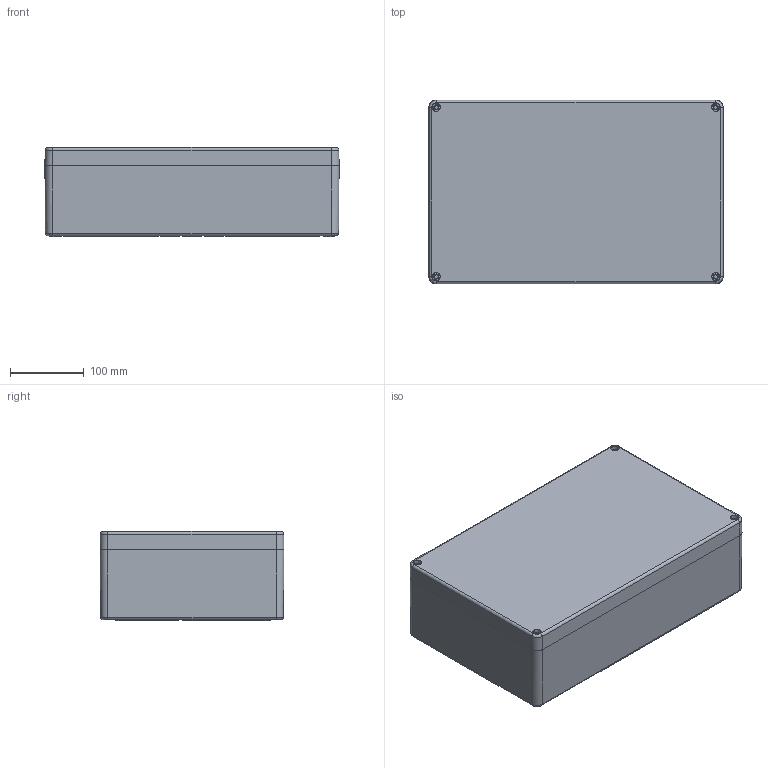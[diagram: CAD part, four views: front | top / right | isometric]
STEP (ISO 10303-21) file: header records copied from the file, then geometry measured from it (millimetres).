
FILE_DESCRIPTION (( 'STEP AP203' ), '1' );
FILE_NAME ('GRP ASSY 400250120.STEP', '2024-08-26T11:05:01', ( '' ), ( '' ), 'SwSTEP 2.0', 'SolidWorks 2018', '' );
FILE_SCHEMA (( 'CONFIG_CONTROL_DESIGN' ));
Length unit declared in the file: millimetre
Products named in the file (5): GRP ASSY 400250120; M6 BOTTOM INSERT; M6 SS TOP INSERT; GRP LID 400250120; GRP BASE 400250120
Assembly tree (12 placements, depth 2):
  GRP ASSY 400250120
    GRP BASE 400250120
    GRP LID 400250120
    M6 SS TOP INSERT  x4
    M6 BOTTOM INSERT  x6
Bounding box: 400 x 250 x 121 mm (x, y, z)
Volume: 2126285.4 mm3; surface area: 716464.9 mm2
Topology: 12 solids, 12 shells, 1124 faces, 2696 edges, 1672 vertices
Faces by surface type: plane 407, cylinder 289, bspline 196, cone 192, torus 40
Entity records: 32863 total; most frequent: CARTESIAN_POINT 14561, ORIENTED_EDGE 3816, DIRECTION 3350, EDGE_CURVE 1908, AXIS2_PLACEMENT_3D 1199, VERTEX_POINT 1192, LINE 952, VECTOR 952
